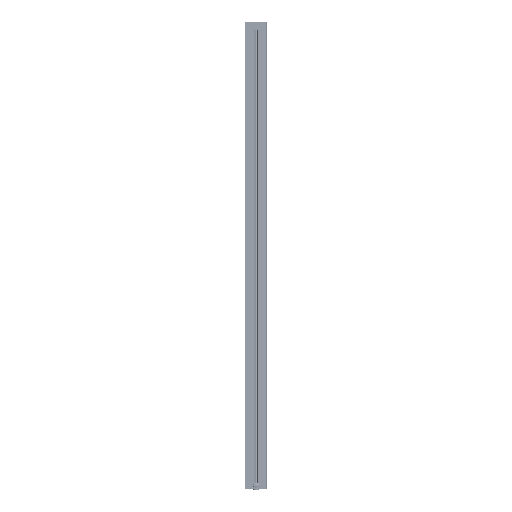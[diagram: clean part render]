
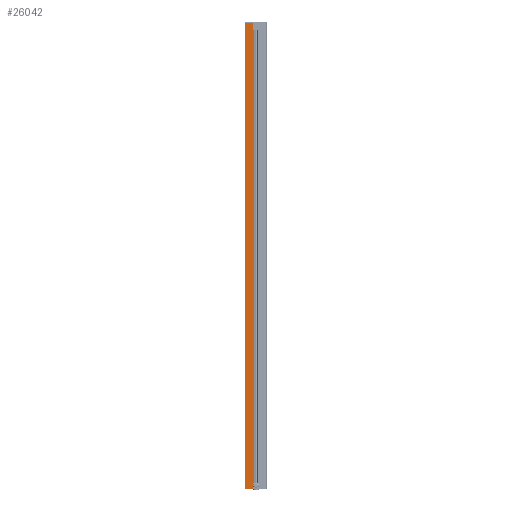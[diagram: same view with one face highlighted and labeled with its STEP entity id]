
A CAD part, left-side view. The second image highlights one B-rep face of the part: STEP entity #26042.
In plain terms, the highlighted planar face has unit normal (-1, 0, 0).
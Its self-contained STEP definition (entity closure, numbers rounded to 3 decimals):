
#532 = CARTESIAN_POINT ( 'NONE',  ( -16., 46.5, 1017. ) ) ;
#822 = CARTESIAN_POINT ( 'NONE',  ( -16., 46.5, -1016.9 ) ) ;
#1255 = CARTESIAN_POINT ( 'NONE',  ( -16., 8.776, -987.3 ) ) ;
#1493 = DIRECTION ( 'NONE',  ( 0., 0., 1. ) ) ;
#2284 = CARTESIAN_POINT ( 'NONE',  ( -16., 13.85, -987.3 ) ) ;
#2947 = ORIENTED_EDGE ( 'NONE', *, *, #12653, .T. ) ;
#3004 = VECTOR ( 'NONE', #17159, 1000. ) ;
#3061 = DIRECTION ( 'NONE',  ( 0., -1., 0. ) ) ;
#3528 = LINE ( 'NONE', #34112, #3004 ) ;
#3693 = LINE ( 'NONE', #23216, #37043 ) ;
#4654 = EDGE_CURVE ( 'NONE', #22763, #15811, #16153, .T. ) ;
#5270 = LINE ( 'NONE', #28473, #26767 ) ;
#5446 = DIRECTION ( 'NONE',  ( 1., 0., 0. ) ) ;
#5863 = PLANE ( 'NONE',  #16934 ) ;
#6219 = VERTEX_POINT ( 'NONE', #1255 ) ;
#6398 = DIRECTION ( 'NONE',  ( 0., -1., 0. ) ) ;
#7078 = ORIENTED_EDGE ( 'NONE', *, *, #38008, .T. ) ;
#8147 = ORIENTED_EDGE ( 'NONE', *, *, #28281, .F. ) ;
#9404 = VERTEX_POINT ( 'NONE', #2284 ) ;
#10000 = DIRECTION ( 'NONE',  ( 0., 0., 1. ) ) ;
#12391 = ORIENTED_EDGE ( 'NONE', *, *, #4654, .F. ) ;
#12653 = EDGE_CURVE ( 'NONE', #33411, #21469, #3693, .T. ) ;
#12894 = VECTOR ( 'NONE', #1493, 1000. ) ;
#13651 = ORIENTED_EDGE ( 'NONE', *, *, #16284, .F. ) ;
#15031 = CARTESIAN_POINT ( 'NONE',  ( -16., 13.85, 1017. ) ) ;
#15811 = VERTEX_POINT ( 'NONE', #29228 ) ;
#16153 = LINE ( 'NONE', #29388, #19793 ) ;
#16284 = EDGE_CURVE ( 'NONE', #15811, #37003, #19396, .T. ) ;
#16934 = AXIS2_PLACEMENT_3D ( 'NONE', #25613, #5446, #18647 ) ;
#17159 = DIRECTION ( 'NONE',  ( 0., 0., -1. ) ) ;
#17267 = CARTESIAN_POINT ( 'NONE',  ( -16., 13.85, -1016.9 ) ) ;
#17457 = CARTESIAN_POINT ( 'NONE',  ( -16., 8.487, 1017. ) ) ;
#17884 = DIRECTION ( 'NONE',  ( 0., -1., 0. ) ) ;
#18647 = DIRECTION ( 'NONE',  ( 0., 1., 0. ) ) ;
#19396 = LINE ( 'NONE', #23311, #28177 ) ;
#19793 = VECTOR ( 'NONE', #42638, 1000. ) ;
#19972 = CARTESIAN_POINT ( 'NONE',  ( -16., 13.85, -1017. ) ) ;
#20563 = ORIENTED_EDGE ( 'NONE', *, *, #22265, .T. ) ;
#20799 = CARTESIAN_POINT ( 'NONE',  ( -16., 8.776, 987.3 ) ) ;
#21256 = VECTOR ( 'NONE', #17884, 1000. ) ;
#21469 = VERTEX_POINT ( 'NONE', #17267 ) ;
#22265 = EDGE_CURVE ( 'NONE', #37884, #33411, #3528, .T. ) ;
#22763 = VERTEX_POINT ( 'NONE', #15031 ) ;
#23216 = CARTESIAN_POINT ( 'NONE',  ( -16., 8.487, -1016.9 ) ) ;
#23311 = CARTESIAN_POINT ( 'NONE',  ( -16., 13.85, 987.3 ) ) ;
#23402 = LINE ( 'NONE', #36652, #12894 ) ;
#24550 = ORIENTED_EDGE ( 'NONE', *, *, #28756, .T. ) ;
#24676 = EDGE_LOOP ( 'NONE', ( #24550, #7078, #29515, #13651, #12391, #8147, #20563, #2947 ) ) ;
#25613 = CARTESIAN_POINT ( 'NONE',  ( -16., 8.487, 1017. ) ) ;
#26042 = ADVANCED_FACE ( 'NONE', ( #38015 ), #5863, .F. ) ;
#26767 = VECTOR ( 'NONE', #28901, 1000. ) ;
#27767 = EDGE_CURVE ( 'NONE', #6219, #37003, #23402, .T. ) ;
#27875 = LINE ( 'NONE', #17457, #21256 ) ;
#28177 = VECTOR ( 'NONE', #6398, 1000. ) ;
#28281 = EDGE_CURVE ( 'NONE', #37884, #22763, #27875, .T. ) ;
#28473 = CARTESIAN_POINT ( 'NONE',  ( -16., 13.85, -987.3 ) ) ;
#28756 = EDGE_CURVE ( 'NONE', #21469, #9404, #30182, .T. ) ;
#28901 = DIRECTION ( 'NONE',  ( 0., -1., 0. ) ) ;
#29228 = CARTESIAN_POINT ( 'NONE',  ( -16., 13.85, 987.3 ) ) ;
#29388 = CARTESIAN_POINT ( 'NONE',  ( -16., 13.85, 1017. ) ) ;
#29515 = ORIENTED_EDGE ( 'NONE', *, *, #27767, .T. ) ;
#30182 = LINE ( 'NONE', #19972, #34477 ) ;
#33411 = VERTEX_POINT ( 'NONE', #822 ) ;
#34112 = CARTESIAN_POINT ( 'NONE',  ( -16., 46.5, 1017. ) ) ;
#34477 = VECTOR ( 'NONE', #10000, 1000. ) ;
#36652 = CARTESIAN_POINT ( 'NONE',  ( -16., 8.776, 1017. ) ) ;
#37003 = VERTEX_POINT ( 'NONE', #20799 ) ;
#37043 = VECTOR ( 'NONE', #3061, 1000. ) ;
#37884 = VERTEX_POINT ( 'NONE', #532 ) ;
#38008 = EDGE_CURVE ( 'NONE', #9404, #6219, #5270, .T. ) ;
#38015 = FACE_OUTER_BOUND ( 'NONE', #24676, .T. ) ;
#42638 = DIRECTION ( 'NONE',  ( 0., 0., -1. ) ) ;
